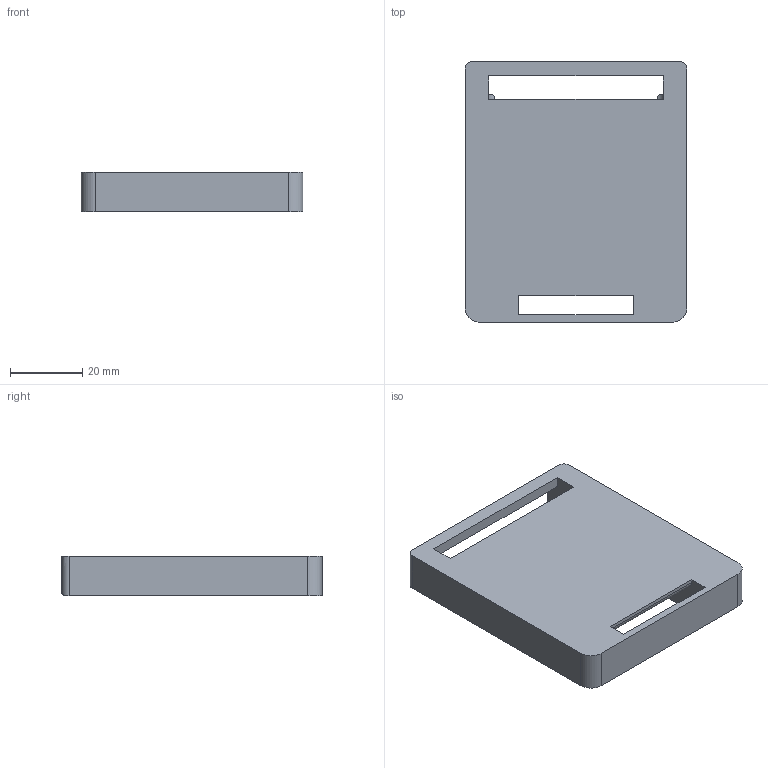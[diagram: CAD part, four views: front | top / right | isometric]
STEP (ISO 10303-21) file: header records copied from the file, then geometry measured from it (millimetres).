
FILE_DESCRIPTION(/* description */ (''),/* implementation_level */ '2;1');
FILE_NAME(/* name */ 'D:/Nextcloud/DIY/3D Drucker/3D Modelle/Projekte/EinhellAdapter/EinhellAdapterV2 v14.step',/* time_stamp */ '2022-07-21T20:14:38+02:00',/* author */ (''),/* organization */ (''),/* preprocessor_version */ 'ST-DEVELOPER v19',/* originating_system */ 'Autodesk Translation Framework v11.7.0.108',/* authorisation */ '');
FILE_SCHEMA (('AUTOMOTIVE_DESIGN { 1 0 10303 214 3 1 1 }'));
Length unit declared in the file: millimetre
Products named in the file (2): EinhellAdapterV2; EinhellAdapterV2_1
Assembly tree (1 placements, depth 2):
  EinhellAdapterV2
    EinhellAdapterV2_1
Bounding box: 61.4 x 72 x 11 mm (x, y, z)
Volume: 25287.8 mm3; surface area: 14043.2 mm2
Topology: 1 solids, 1 shells, 75 faces, 216 edges, 144 vertices
Faces by surface type: plane 62, cylinder 13
Entity records: 2513 total; most frequent: CARTESIAN_POINT 462, ORIENTED_EDGE 432, DIRECTION 394, EDGE_CURVE 216, LINE 186, VECTOR 186, VERTEX_POINT 144, AXIS2_PLACEMENT_3D 104
